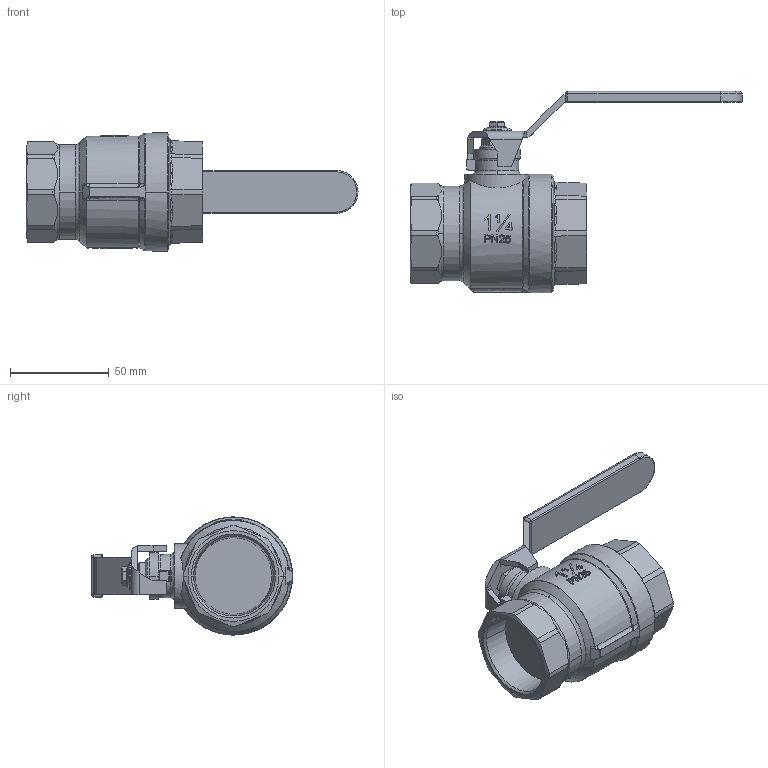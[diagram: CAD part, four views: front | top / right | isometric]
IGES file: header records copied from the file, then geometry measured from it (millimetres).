
Global section: file name: No Iges File Name specified; native system: AutoDesk Inventor R12.0; preprocessor: AutoDesk Inventor Iges Exporter R12.0; date: 20110214.114047; units: millimetre
Bounding box: 168.51 x 102.1 x 60 mm (x, y, z)
Volume: 191594.1 mm3; surface area: 33515.2 mm2
Topology: 1 solids, 1 shells, 1265 faces, 3379 edges, 2207 vertices
Faces by surface type: plane 728, bspline 397, cylinder 60, cone 32, revolution 26, torus 20, sphere 2
Full cylindrical faces by diameter (mm): 32.798 x1
